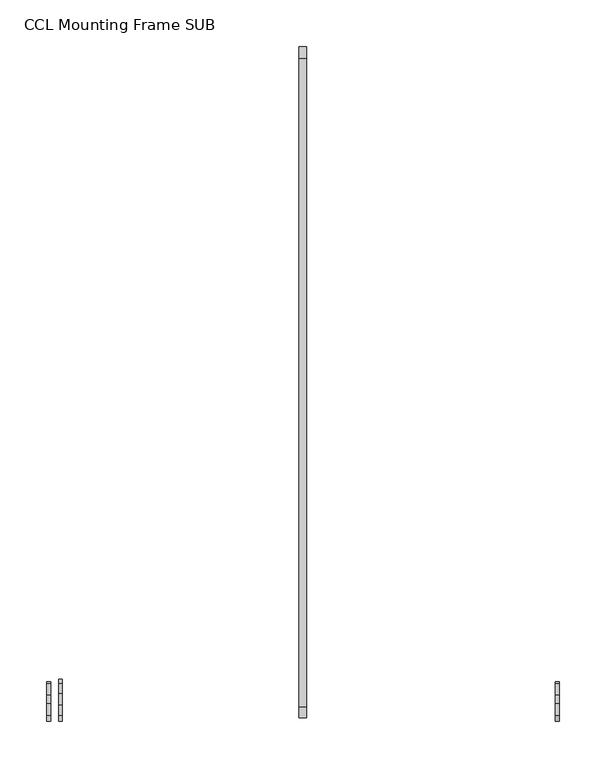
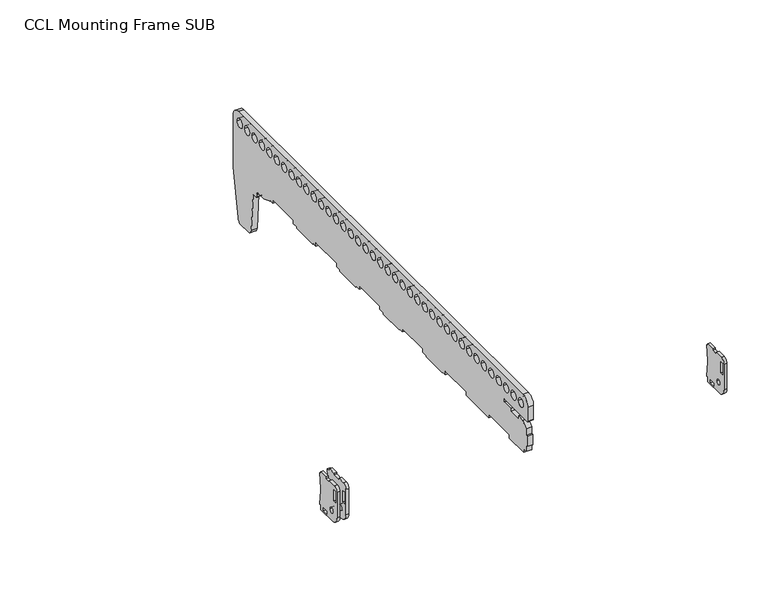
"""IFC4 building model written with IfcOpenShell, lengths in millimetres: proxy geometry, d&b CL-Series CCL Mounting Frame SUB : CCL Mounting Frame SUB."""

from ifc_helpers import new_model, si_unit, point, frame, frame_2d, origin, place, context, project, spatial, polyline, circle_curve, trimmed, segment, composite_curve, outline, extrude, source, transform, mapped, element, save


def ccl_mounting_frame_sub_d8e833bb(model_context):
    return source(origin(), model_context, "Body", "SweptSolid", [
        extrude(outline(composite_curve([segment(polyline([(38.0, 0.0), (12.0, 0.0)]), True, "CONTINUOUS"), segment(trimmed(circle_curve(frame_2d((12.0, 12.0)), 12.0), [point((12.0, 0.0))], [point((0.0, 12.0))], False, "CARTESIAN"), True, "CONTINUOUS"), segment(polyline([(0.0, 12.0), (0.0, 49.6194982)]), True, "CONTINUOUS"), segment(trimmed(circle_curve(frame_2d((6.3805018, 49.6194982)), 6.3805018), [point((0.0, 49.6194982))], [point((6.3805018, 56.0))], False, "CARTESIAN"), True, "CONTINUOUS"), segment(polyline([(6.3805018, 56.0), (18.5, 56.0), (18.5, 53.25), (28.0, 53.25), (28.0, 56.0), (40.0, 56.0), (40.0, 53.25), (42.0, 53.25), (39.6442176, 30.8362277)]), True, "CONTINUOUS"), segment(trimmed(circle_curve(frame_2d((47.6003928, 30.0)), 8.0), [point((39.6442176, 30.8362277))], [point((39.6442176, 29.1637723))], True, "CARTESIAN"), True, "CONTINUOUS"), segment(polyline([(39.6442176, 29.1637723), (42.0, 6.75), (40.0, 6.75), (40.0, 2.0)]), True, "CONTINUOUS"), segment(trimmed(circle_curve(frame_2d((38.0, 2.0)), 2.0), [point((40.0, 2.0))], [point((38.0, 0.0))], False, "CARTESIAN"), True, "CONTINUOUS")], self_intersect=False), holes=[polyline([(7.75, 48.75), (3.25, 48.75), (3.25, 32.25), (7.75, 32.25), (7.75, 48.75)]), composite_curve([segment(trimmed(circle_curve(frame_2d((13.5, 14.96875)), 3.65), [point((9.85, 14.96875))], [point((17.15, 14.96875))], True, "CARTESIAN"), True, "CONTINUOUS"), segment(trimmed(circle_curve(frame_2d((13.5, 14.96875)), 3.65), [point((17.15, 14.96875))], [point((9.85, 14.96875))], True, "CARTESIAN"), True, "CONTINUOUS")], self_intersect=False), polyline([(24.75, 6.75), (24.75, 2.0), (33.25, 2.0), (33.25, 6.75), (24.75, 6.75)])]), frame((269.75, 0.0, 0.0), z_axis=(1.0, 0.0, 0.0), x_axis=(0.0, 1.0, 0.0)), (0.0, 0.0, 1.0), 4.0),
        extrude(outline(composite_curve([segment(polyline([(720.0, 79.5), (720.0, 5.6120778)]), True, "CONTINUOUS"), segment(trimmed(circle_curve(frame_2d((700.0, 5.6120778)), 20.0), [point((720.0, 5.6120778))], [point((719.6961551, 2.1391143))], False, "CARTESIAN"), True, "CONTINUOUS"), segment(polyline([(719.6961551, 2.1391143), (707.665665, -66.0891854)]), True, "CONTINUOUS"), segment(trimmed(circle_curve(frame_2d((701.0548504, -66.0891854)), 6.6108146), [point((707.665665, -66.0891854))], [point((701.0548504, -72.7))], False, "CARTESIAN"), True, "CONTINUOUS"), segment(polyline([(701.0548504, -72.7), (683.8306494, -72.7)]), True, "CONTINUOUS"), segment(trimmed(circle_curve(frame_2d((683.8306494, -64.7)), 8.0), [point((683.8306494, -72.7))], [point((675.8610918, -65.3972459))], False, "CARTESIAN"), True, "CONTINUOUS"), segment(polyline([(675.8610918, -65.3972459), (671.0866992, -10.8256885)]), True, "CONTINUOUS"), segment(trimmed(circle_curve(frame_2d((669.0943098, -11.0)), 2.0), [point((671.0866992, -10.8256885))], [point((669.0943098, -9.0))], True, "CARTESIAN"), True, "CONTINUOUS"), segment(polyline([(669.0943098, -9.0), (664.0, -9.0)]), True, "CONTINUOUS"), segment(trimmed(circle_curve(frame_2d((664.0, -8.0)), 1.0), [point((664.0, -9.0))], [point((663.0, -8.0))], False, "CARTESIAN"), True, "CONTINUOUS"), segment(polyline([(663.0, -8.0), (663.0, -5.0)]), True, "CONTINUOUS"), segment(trimmed(circle_curve(frame_2d((658.0, -5.0)), 5.0), [point((663.0, -5.0))], [point((658.0, 0.0))], True, "CARTESIAN"), True, "CONTINUOUS"), segment(polyline([(658.0, 0.0), (647.5683127, 0.0)]), True, "CONTINUOUS"), segment(trimmed(circle_curve(frame_2d((647.5683127, 14.7166202)), 14.7166202), [point((647.5683127, 0.0))], [point((642.5835069, 0.8699375))], False, "CARTESIAN"), True, "CONTINUOUS"), segment(polyline([(642.5835069, 0.8699375), (632.5, 4.5), (631.5, 4.5), (631.5, 6.5), (623.5, 6.5), (623.5, 11.5), (573.5, 11.5), (573.5, 6.5), (565.5, 6.5), (565.5, 4.5), (526.5, 4.5), (526.5, 6.5), (518.5, 6.5), (518.5, 11.5), (468.5, 11.5), (468.5, 6.5), (460.5, 6.5), (460.5, 4.5), (421.5, 4.5), (421.5, 6.5), (413.5, 6.5), (413.5, 11.5), (363.5, 11.5), (363.5, 6.5), (355.5, 6.5), (355.5, 4.5), (316.5, 4.5), (316.5, 6.5), (308.5, 6.5), (308.5, 11.5), (258.5, 11.5), (258.5, 6.5), (250.5, 6.5), (250.5, 4.5), (211.5, 4.5), (211.5, 6.5), (203.5, 6.5), (203.5, 11.5), (153.5, 11.5), (153.5, 6.5), (98.5, 6.5), (98.5, 11.5), (48.5, 11.5), (48.5, 6.5), (13.5, 6.5), (13.5, 11.5), (7.5, 11.5), (7.5, 20.5), (5.0, 20.5), (5.0, 35.5), (7.5, 35.5), (7.5, 45.25), (15.5, 53.25), (25.5, 53.25), (25.5, 48.25), (45.0, 48.25), (45.0, 53.25), (60.0, 53.25), (60.0, 57.75), (4.5, 57.75)]), True, "CONTINUOUS"), segment(trimmed(circle_curve(frame_2d((4.5, 58.75)), 1.0), [point((4.5, 57.75))], [point((3.5, 58.75))], False, "CARTESIAN"), True, "CONTINUOUS"), segment(polyline([(3.5, 58.75), (3.5, 79.5)]), True, "CONTINUOUS"), segment(trimmed(circle_curve(frame_2d((15.5, 79.5)), 12.0), [point((3.5, 79.5))], [point((15.5, 91.5))], False, "CARTESIAN"), True, "CONTINUOUS"), segment(polyline([(15.5, 91.5), (708.0, 91.5)]), True, "CONTINUOUS"), segment(trimmed(circle_curve(frame_2d((708.0, 79.5)), 12.0), [point((708.0, 91.5))], [point((720.0, 79.5))], False, "CARTESIAN"), True, "CONTINUOUS")], self_intersect=False), holes=[composite_curve([segment(trimmed(circle_curve(frame_2d((704.0, 76.5)), 6.25), [point((697.75, 76.5))], [point((710.25, 76.5))], True, "CARTESIAN"), True, "CONTINUOUS"), segment(trimmed(circle_curve(frame_2d((704.0, 76.5)), 6.25), [point((710.25, 76.5))], [point((697.75, 76.5))], True, "CARTESIAN"), True, "CONTINUOUS")], self_intersect=False), composite_curve([segment(trimmed(circle_curve(frame_2d((686.0, 76.5)), 6.25), [point((679.75, 76.5))], [point((692.25, 76.5))], True, "CARTESIAN"), True, "CONTINUOUS"), segment(trimmed(circle_curve(frame_2d((686.0, 76.5)), 6.25), [point((692.25, 76.5))], [point((679.75, 76.5))], True, "CARTESIAN"), True, "CONTINUOUS")], self_intersect=False), composite_curve([segment(trimmed(circle_curve(frame_2d((668.0, 76.5)), 6.25), [point((661.75, 76.5))], [point((674.25, 76.5))], True, "CARTESIAN"), True, "CONTINUOUS"), segment(trimmed(circle_curve(frame_2d((668.0, 76.5)), 6.25), [point((674.25, 76.5))], [point((661.75, 76.5))], True, "CARTESIAN"), True, "CONTINUOUS")], self_intersect=False), composite_curve([segment(trimmed(circle_curve(frame_2d((650.0, 76.5)), 6.25), [point((643.75, 76.5))], [point((656.25, 76.5))], True, "CARTESIAN"), True, "CONTINUOUS"), segment(trimmed(circle_curve(frame_2d((650.0, 76.5)), 6.25), [point((656.25, 76.5))], [point((643.75, 76.5))], True, "CARTESIAN"), True, "CONTINUOUS")], self_intersect=False), composite_curve([segment(trimmed(circle_curve(frame_2d((632.0, 76.5)), 6.25), [point((625.75, 76.5))], [point((638.25, 76.5))], True, "CARTESIAN"), True, "CONTINUOUS"), segment(trimmed(circle_curve(frame_2d((632.0, 76.5)), 6.25), [point((638.25, 76.5))], [point((625.75, 76.5))], True, "CARTESIAN"), True, "CONTINUOUS")], self_intersect=False), composite_curve([segment(trimmed(circle_curve(frame_2d((614.0, 76.5)), 6.25), [point((607.75, 76.5))], [point((620.25, 76.5))], True, "CARTESIAN"), True, "CONTINUOUS"), segment(trimmed(circle_curve(frame_2d((614.0, 76.5)), 6.25), [point((620.25, 76.5))], [point((607.75, 76.5))], True, "CARTESIAN"), True, "CONTINUOUS")], self_intersect=False), composite_curve([segment(trimmed(circle_curve(frame_2d((524.0, 76.5)), 6.25), [point((517.75, 76.5))], [point((530.25, 76.5))], True, "CARTESIAN"), True, "CONTINUOUS"), segment(trimmed(circle_curve(frame_2d((524.0, 76.5)), 6.25), [point((530.25, 76.5))], [point((517.75, 76.5))], True, "CARTESIAN"), True, "CONTINUOUS")], self_intersect=False), composite_curve([segment(trimmed(circle_curve(frame_2d((542.0, 76.5)), 6.25), [point((535.75, 76.5))], [point((548.25, 76.5))], True, "CARTESIAN"), True, "CONTINUOUS"), segment(trimmed(circle_curve(frame_2d((542.0, 76.5)), 6.25), [point((548.25, 76.5))], [point((535.75, 76.5))], True, "CARTESIAN"), True, "CONTINUOUS")], self_intersect=False), composite_curve([segment(trimmed(circle_curve(frame_2d((560.0, 76.5)), 6.25), [point((553.75, 76.5))], [point((566.25, 76.5))], True, "CARTESIAN"), True, "CONTINUOUS"), segment(trimmed(circle_curve(frame_2d((560.0, 76.5)), 6.25), [point((566.25, 76.5))], [point((553.75, 76.5))], True, "CARTESIAN"), True, "CONTINUOUS")], self_intersect=False), composite_curve([segment(trimmed(circle_curve(frame_2d((578.0, 76.5)), 6.25), [point((571.75, 76.5))], [point((584.25, 76.5))], True, "CARTESIAN"), True, "CONTINUOUS"), segment(trimmed(circle_curve(frame_2d((578.0, 76.5)), 6.25), [point((584.25, 76.5))], [point((571.75, 76.5))], True, "CARTESIAN"), True, "CONTINUOUS")], self_intersect=False), composite_curve([segment(trimmed(circle_curve(frame_2d((596.0, 76.5)), 6.25), [point((589.75, 76.5))], [point((602.25, 76.5))], True, "CARTESIAN"), True, "CONTINUOUS"), segment(trimmed(circle_curve(frame_2d((596.0, 76.5)), 6.25), [point((602.25, 76.5))], [point((589.75, 76.5))], True, "CARTESIAN"), True, "CONTINUOUS")], self_intersect=False), composite_curve([segment(trimmed(circle_curve(frame_2d((344.0, 76.5)), 6.25), [point((337.75, 76.5))], [point((350.25, 76.5))], True, "CARTESIAN"), True, "CONTINUOUS"), segment(trimmed(circle_curve(frame_2d((344.0, 76.5)), 6.25), [point((350.25, 76.5))], [point((337.75, 76.5))], True, "CARTESIAN"), True, "CONTINUOUS")], self_intersect=False), composite_curve([segment(trimmed(circle_curve(frame_2d((362.0, 76.5)), 6.25), [point((355.75, 76.5))], [point((368.25, 76.5))], True, "CARTESIAN"), True, "CONTINUOUS"), segment(trimmed(circle_curve(frame_2d((362.0, 76.5)), 6.25), [point((368.25, 76.5))], [point((355.75, 76.5))], True, "CARTESIAN"), True, "CONTINUOUS")], self_intersect=False), composite_curve([segment(trimmed(circle_curve(frame_2d((380.0, 76.5)), 6.25), [point((373.75, 76.5))], [point((386.25, 76.5))], True, "CARTESIAN"), True, "CONTINUOUS"), segment(trimmed(circle_curve(frame_2d((380.0, 76.5)), 6.25), [point((386.25, 76.5))], [point((373.75, 76.5))], True, "CARTESIAN"), True, "CONTINUOUS")], self_intersect=False), composite_curve([segment(trimmed(circle_curve(frame_2d((398.0, 76.5)), 6.25), [point((391.75, 76.5))], [point((404.25, 76.5))], True, "CARTESIAN"), True, "CONTINUOUS"), segment(trimmed(circle_curve(frame_2d((398.0, 76.5)), 6.25), [point((404.25, 76.5))], [point((391.75, 76.5))], True, "CARTESIAN"), True, "CONTINUOUS")], self_intersect=False), composite_curve([segment(trimmed(circle_curve(frame_2d((416.0, 76.5)), 6.25), [point((409.75, 76.5))], [point((422.25, 76.5))], True, "CARTESIAN"), True, "CONTINUOUS"), segment(trimmed(circle_curve(frame_2d((416.0, 76.5)), 6.25), [point((422.25, 76.5))], [point((409.75, 76.5))], True, "CARTESIAN"), True, "CONTINUOUS")], self_intersect=False), composite_curve([segment(trimmed(circle_curve(frame_2d((434.0, 76.5)), 6.25), [point((427.75, 76.5))], [point((440.25, 76.5))], True, "CARTESIAN"), True, "CONTINUOUS"), segment(trimmed(circle_curve(frame_2d((434.0, 76.5)), 6.25), [point((440.25, 76.5))], [point((427.75, 76.5))], True, "CARTESIAN"), True, "CONTINUOUS")], self_intersect=False), composite_curve([segment(trimmed(circle_curve(frame_2d((506.0, 76.5)), 6.25), [point((499.75, 76.5))], [point((512.25, 76.5))], True, "CARTESIAN"), True, "CONTINUOUS"), segment(trimmed(circle_curve(frame_2d((506.0, 76.5)), 6.25), [point((512.25, 76.5))], [point((499.75, 76.5))], True, "CARTESIAN"), True, "CONTINUOUS")], self_intersect=False), composite_curve([segment(trimmed(circle_curve(frame_2d((488.0, 76.5)), 6.25), [point((481.75, 76.5))], [point((494.25, 76.5))], True, "CARTESIAN"), True, "CONTINUOUS"), segment(trimmed(circle_curve(frame_2d((488.0, 76.5)), 6.25), [point((494.25, 76.5))], [point((481.75, 76.5))], True, "CARTESIAN"), True, "CONTINUOUS")], self_intersect=False), composite_curve([segment(trimmed(circle_curve(frame_2d((470.0, 76.5)), 6.25), [point((463.75, 76.5))], [point((476.25, 76.5))], True, "CARTESIAN"), True, "CONTINUOUS"), segment(trimmed(circle_curve(frame_2d((470.0, 76.5)), 6.25), [point((476.25, 76.5))], [point((463.75, 76.5))], True, "CARTESIAN"), True, "CONTINUOUS")], self_intersect=False), composite_curve([segment(trimmed(circle_curve(frame_2d((452.0, 76.5)), 6.25), [point((445.75, 76.5))], [point((458.25, 76.5))], True, "CARTESIAN"), True, "CONTINUOUS"), segment(trimmed(circle_curve(frame_2d((452.0, 76.5)), 6.25), [point((458.25, 76.5))], [point((445.75, 76.5))], True, "CARTESIAN"), True, "CONTINUOUS")], self_intersect=False), composite_curve([segment(trimmed(circle_curve(frame_2d((20.0, 76.5)), 6.25), [point((13.75, 76.5))], [point((26.25, 76.5))], True, "CARTESIAN"), True, "CONTINUOUS"), segment(trimmed(circle_curve(frame_2d((20.0, 76.5)), 6.25), [point((26.25, 76.5))], [point((13.75, 76.5))], True, "CARTESIAN"), True, "CONTINUOUS")], self_intersect=False), composite_curve([segment(trimmed(circle_curve(frame_2d((38.0, 76.5)), 6.25), [point((31.75, 76.5))], [point((44.25, 76.5))], True, "CARTESIAN"), True, "CONTINUOUS"), segment(trimmed(circle_curve(frame_2d((38.0, 76.5)), 6.25), [point((44.25, 76.5))], [point((31.75, 76.5))], True, "CARTESIAN"), True, "CONTINUOUS")], self_intersect=False), composite_curve([segment(trimmed(circle_curve(frame_2d((56.0, 76.5)), 6.25), [point((49.75, 76.5))], [point((62.25, 76.5))], True, "CARTESIAN"), True, "CONTINUOUS"), segment(trimmed(circle_curve(frame_2d((56.0, 76.5)), 6.25), [point((62.25, 76.5))], [point((49.75, 76.5))], True, "CARTESIAN"), True, "CONTINUOUS")], self_intersect=False), composite_curve([segment(trimmed(circle_curve(frame_2d((74.0, 76.5)), 6.25), [point((67.75, 76.5))], [point((80.25, 76.5))], True, "CARTESIAN"), True, "CONTINUOUS"), segment(trimmed(circle_curve(frame_2d((74.0, 76.5)), 6.25), [point((80.25, 76.5))], [point((67.75, 76.5))], True, "CARTESIAN"), True, "CONTINUOUS")], self_intersect=False), composite_curve([segment(trimmed(circle_curve(frame_2d((164.0, 76.5)), 6.25), [point((157.75, 76.5))], [point((170.25, 76.5))], True, "CARTESIAN"), True, "CONTINUOUS"), segment(trimmed(circle_curve(frame_2d((164.0, 76.5)), 6.25), [point((170.25, 76.5))], [point((157.75, 76.5))], True, "CARTESIAN"), True, "CONTINUOUS")], self_intersect=False), composite_curve([segment(trimmed(circle_curve(frame_2d((146.0, 76.5)), 6.25), [point((139.75, 76.5))], [point((152.25, 76.5))], True, "CARTESIAN"), True, "CONTINUOUS"), segment(trimmed(circle_curve(frame_2d((146.0, 76.5)), 6.25), [point((152.25, 76.5))], [point((139.75, 76.5))], True, "CARTESIAN"), True, "CONTINUOUS")], self_intersect=False), composite_curve([segment(trimmed(circle_curve(frame_2d((128.0, 76.5)), 6.25), [point((121.75, 76.5))], [point((134.25, 76.5))], True, "CARTESIAN"), True, "CONTINUOUS"), segment(trimmed(circle_curve(frame_2d((128.0, 76.5)), 6.25), [point((134.25, 76.5))], [point((121.75, 76.5))], True, "CARTESIAN"), True, "CONTINUOUS")], self_intersect=False), composite_curve([segment(trimmed(circle_curve(frame_2d((110.0, 76.5)), 6.25), [point((103.75, 76.5))], [point((116.25, 76.5))], True, "CARTESIAN"), True, "CONTINUOUS"), segment(trimmed(circle_curve(frame_2d((110.0, 76.5)), 6.25), [point((116.25, 76.5))], [point((103.75, 76.5))], True, "CARTESIAN"), True, "CONTINUOUS")], self_intersect=False), composite_curve([segment(trimmed(circle_curve(frame_2d((92.0, 76.5)), 6.25), [point((85.75, 76.5))], [point((98.25, 76.5))], True, "CARTESIAN"), True, "CONTINUOUS"), segment(trimmed(circle_curve(frame_2d((92.0, 76.5)), 6.25), [point((98.25, 76.5))], [point((85.75, 76.5))], True, "CARTESIAN"), True, "CONTINUOUS")], self_intersect=False), composite_curve([segment(trimmed(circle_curve(frame_2d((326.0, 76.5)), 6.25), [point((319.75, 76.5))], [point((332.25, 76.5))], True, "CARTESIAN"), True, "CONTINUOUS"), segment(trimmed(circle_curve(frame_2d((326.0, 76.5)), 6.25), [point((332.25, 76.5))], [point((319.75, 76.5))], True, "CARTESIAN"), True, "CONTINUOUS")], self_intersect=False), composite_curve([segment(trimmed(circle_curve(frame_2d((308.0, 76.5)), 6.25), [point((301.75, 76.5))], [point((314.25, 76.5))], True, "CARTESIAN"), True, "CONTINUOUS"), segment(trimmed(circle_curve(frame_2d((308.0, 76.5)), 6.25), [point((314.25, 76.5))], [point((301.75, 76.5))], True, "CARTESIAN"), True, "CONTINUOUS")], self_intersect=False), composite_curve([segment(trimmed(circle_curve(frame_2d((290.0, 76.5)), 6.25), [point((283.75, 76.5))], [point((296.25, 76.5))], True, "CARTESIAN"), True, "CONTINUOUS"), segment(trimmed(circle_curve(frame_2d((290.0, 76.5)), 6.25), [point((296.25, 76.5))], [point((283.75, 76.5))], True, "CARTESIAN"), True, "CONTINUOUS")], self_intersect=False), composite_curve([segment(trimmed(circle_curve(frame_2d((272.0, 76.5)), 6.25), [point((265.75, 76.5))], [point((278.25, 76.5))], True, "CARTESIAN"), True, "CONTINUOUS"), segment(trimmed(circle_curve(frame_2d((272.0, 76.5)), 6.25), [point((278.25, 76.5))], [point((265.75, 76.5))], True, "CARTESIAN"), True, "CONTINUOUS")], self_intersect=False), composite_curve([segment(trimmed(circle_curve(frame_2d((254.0, 76.5)), 6.25), [point((247.75, 76.5))], [point((260.25, 76.5))], True, "CARTESIAN"), True, "CONTINUOUS"), segment(trimmed(circle_curve(frame_2d((254.0, 76.5)), 6.25), [point((260.25, 76.5))], [point((247.75, 76.5))], True, "CARTESIAN"), True, "CONTINUOUS")], self_intersect=False), composite_curve([segment(trimmed(circle_curve(frame_2d((182.0, 76.5)), 6.25), [point((175.75, 76.5))], [point((188.25, 76.5))], True, "CARTESIAN"), True, "CONTINUOUS"), segment(trimmed(circle_curve(frame_2d((182.0, 76.5)), 6.25), [point((188.25, 76.5))], [point((175.75, 76.5))], True, "CARTESIAN"), True, "CONTINUOUS")], self_intersect=False), composite_curve([segment(trimmed(circle_curve(frame_2d((200.0, 76.5)), 6.25), [point((193.75, 76.5))], [point((206.25, 76.5))], True, "CARTESIAN"), True, "CONTINUOUS"), segment(trimmed(circle_curve(frame_2d((200.0, 76.5)), 6.25), [point((206.25, 76.5))], [point((193.75, 76.5))], True, "CARTESIAN"), True, "CONTINUOUS")], self_intersect=False), composite_curve([segment(trimmed(circle_curve(frame_2d((218.0, 76.5)), 6.25), [point((211.75, 76.5))], [point((224.25, 76.5))], True, "CARTESIAN"), True, "CONTINUOUS"), segment(trimmed(circle_curve(frame_2d((218.0, 76.5)), 6.25), [point((224.25, 76.5))], [point((211.75, 76.5))], True, "CARTESIAN"), True, "CONTINUOUS")], self_intersect=False), composite_curve([segment(trimmed(circle_curve(frame_2d((236.0, 76.5)), 6.25), [point((229.75, 76.5))], [point((242.25, 76.5))], True, "CARTESIAN"), True, "CONTINUOUS"), segment(trimmed(circle_curve(frame_2d((236.0, 76.5)), 6.25), [point((242.25, 76.5))], [point((229.75, 76.5))], True, "CARTESIAN"), True, "CONTINUOUS")], self_intersect=False)]), frame((-4.0, 0.0, 0.0), z_axis=(1.0, 0.0, 0.0), x_axis=(0.0, 1.0, 0.0)), (0.0, 0.0, 1.0), 8.0),
        extrude(outline(composite_curve([segment(polyline([(38.0, 0.0), (12.0, 0.0)]), True, "CONTINUOUS"), segment(trimmed(circle_curve(frame_2d((12.0, 12.0)), 12.0), [point((12.0, 0.0))], [point((0.0, 12.0))], False, "CARTESIAN"), True, "CONTINUOUS"), segment(polyline([(0.0, 12.0), (0.0, 49.6194982)]), True, "CONTINUOUS"), segment(trimmed(circle_curve(frame_2d((6.3805018, 49.6194982)), 6.3805018), [point((0.0, 49.6194982))], [point((6.3805018, 56.0))], False, "CARTESIAN"), True, "CONTINUOUS"), segment(polyline([(6.3805018, 56.0), (16.75, 56.0), (16.75, 53.25), (29.75, 53.25), (29.75, 56.0), (40.0, 56.0), (40.0, 53.25), (45.0, 53.25), (42.6442176, 30.8362277)]), True, "CONTINUOUS"), segment(trimmed(circle_curve(frame_2d((50.6003928, 30.0)), 8.0), [point((42.6442176, 30.8362277))], [point((42.6442176, 29.1637723))], True, "CARTESIAN"), True, "CONTINUOUS"), segment(polyline([(42.6442176, 29.1637723), (45.0, 6.75), (40.0, 6.75), (40.0, 2.0)]), True, "CONTINUOUS"), segment(trimmed(circle_curve(frame_2d((38.0, 2.0)), 2.0), [point((40.0, 2.0))], [point((38.0, 0.0))], False, "CARTESIAN"), True, "CONTINUOUS")], self_intersect=False), holes=[polyline([(7.75, 43.25), (3.25, 43.25), (3.25, 26.75), (7.75, 26.75), (7.75, 43.25)]), composite_curve([segment(trimmed(circle_curve(frame_2d((13.5, 14.96875)), 3.65), [point((9.85, 14.96875))], [point((17.15, 14.96875))], True, "CARTESIAN"), True, "CONTINUOUS"), segment(trimmed(circle_curve(frame_2d((13.5, 14.96875)), 3.65), [point((17.15, 14.96875))], [point((9.85, 14.96875))], True, "CARTESIAN"), True, "CONTINUOUS")], self_intersect=False), polyline([(16.75, 6.75), (16.75, 2.0), (29.75, 2.0), (29.75, 6.75), (16.75, 6.75)])]), frame((-261.25, 0.0, 0.0), z_axis=(1.0, 0.0, 0.0), x_axis=(0.0, 1.0, 0.0)), (0.0, 0.0, 1.0), 4.0),
        extrude(outline(composite_curve([segment(polyline([(38.0, 0.0), (12.0, 0.0)]), True, "CONTINUOUS"), segment(trimmed(circle_curve(frame_2d((12.0, 12.0)), 12.0), [point((12.0, 0.0))], [point((0.0, 12.0))], False, "CARTESIAN"), True, "CONTINUOUS"), segment(polyline([(0.0, 12.0), (0.0, 49.6194982)]), True, "CONTINUOUS"), segment(trimmed(circle_curve(frame_2d((6.3805018, 49.6194982)), 6.3805018), [point((0.0, 49.6194982))], [point((6.3805018, 56.0))], False, "CARTESIAN"), True, "CONTINUOUS"), segment(polyline([(6.3805018, 56.0), (18.5, 56.0), (18.5, 53.25), (28.0, 53.25), (28.0, 56.0), (40.0, 56.0), (40.0, 53.25), (42.0, 53.25), (39.6442176, 30.8362277)]), True, "CONTINUOUS"), segment(trimmed(circle_curve(frame_2d((47.6003928, 30.0)), 8.0), [point((39.6442176, 30.8362277))], [point((39.6442176, 29.1637723))], True, "CARTESIAN"), True, "CONTINUOUS"), segment(polyline([(39.6442176, 29.1637723), (42.0, 6.75), (40.0, 6.75), (40.0, 2.0)]), True, "CONTINUOUS"), segment(trimmed(circle_curve(frame_2d((38.0, 2.0)), 2.0), [point((40.0, 2.0))], [point((38.0, 0.0))], False, "CARTESIAN"), True, "CONTINUOUS")], self_intersect=False), holes=[polyline([(7.75, 48.75), (3.25, 48.75), (3.25, 32.25), (7.75, 32.25), (7.75, 48.75)]), composite_curve([segment(trimmed(circle_curve(frame_2d((13.5, 14.96875)), 3.65), [point((9.85, 14.96875))], [point((17.15, 14.96875))], True, "CARTESIAN"), True, "CONTINUOUS"), segment(trimmed(circle_curve(frame_2d((13.5, 14.96875)), 3.65), [point((17.15, 14.96875))], [point((9.85, 14.96875))], True, "CARTESIAN"), True, "CONTINUOUS")], self_intersect=False), polyline([(24.75, 6.75), (24.75, 2.0), (33.25, 2.0), (33.25, 6.75), (24.75, 6.75)])]), frame((-273.75, 0.0, 0.0), z_axis=(1.0, 0.0, 0.0), x_axis=(0.0, 1.0, 0.0)), (0.0, 0.0, 1.0), 4.0),
    ])


if __name__ == "__main__":
    model = new_model("IFC4")
    model_context = context("Model", 3, world=origin())
    ifc_project = project(units=[si_unit("LENGTHUNIT", "METRE", prefix="MILLI")], contexts=[model_context])
    site = spatial("IfcSite", under=ifc_project)
    building = spatial("IfcBuilding", under=site)
    placement = place(None, origin())
    ccl_mounting_frame_sub_shape = ccl_mounting_frame_sub_d8e833bb(model_context)
    element("IfcBuildingElementProxy", 1, Name="d&b CL-Series CCL Mounting Frame SUB : CCL Mounting Frame SUB", ObjectType="d&b CL-Series CCL Mounting Frame SUB : CCL Mounting Frame SUB", at=placement, inside=building, context=model_context, shape_type="MappedRepresentation", body=[
        mapped(ccl_mounting_frame_sub_shape, transform((0.0, 0.0, 0.0), x_axis=(1.0, 0.0, 0.0), y_axis=(0.0, 1.0, 0.0), z_axis=(0.0, 0.0, 1.0))),
    ])
    save(model, "model.ifc")
